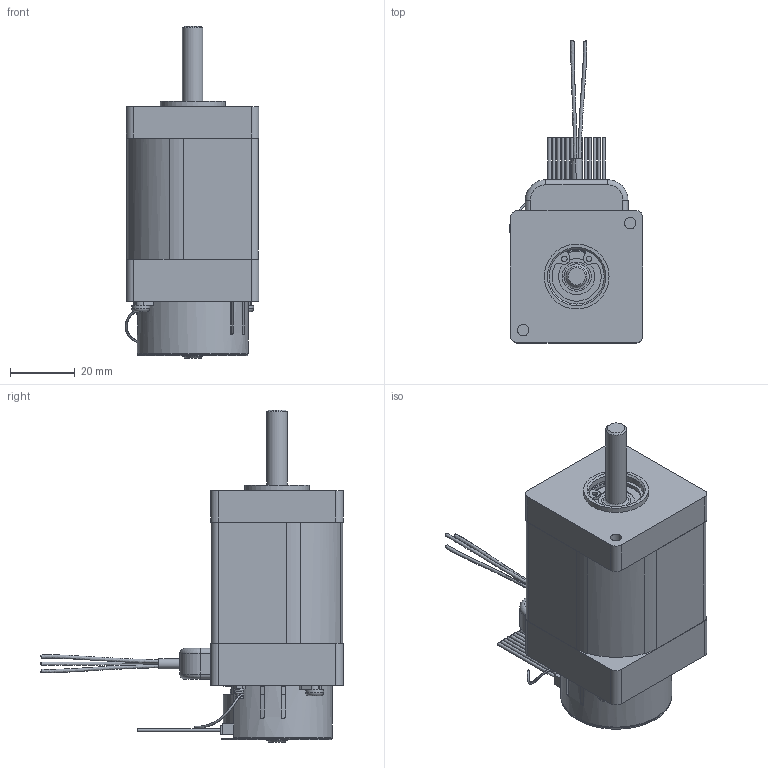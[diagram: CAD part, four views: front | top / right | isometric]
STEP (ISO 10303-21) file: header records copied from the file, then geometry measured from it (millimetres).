
FILE_DESCRIPTION((''),'2;1');
FILE_NAME('C:\CAD_work\Dummy_Modeling_Project_02-12-05\3D MODELS\BE163_FO.stp','2005-12-20T15:16:11',('jevans'),(''),'Autodesk Inventor 10','Autodesk Inventor 10','');
FILE_SCHEMA(('AUTOMOTIVE_DESIGN { 1 0 10303 214 1 1 1 1 }'));
Length unit declared in the file: inch
Products named in the file (1): BE16_FO
Bounding box: 41.3 x 93.29 x 102.49 mm (x, y, z)
Volume: 103415.5 mm3; surface area: 26271.2 mm2
Topology: 1 solids, 2 shells, 324 faces, 792 edges, 502 vertices
Faces by surface type: plane 194, cylinder 97, bspline 14, cone 11, torus 8
Full cylindrical faces by diameter (mm): 1.016 x13, 1.575 x1, 1.7 x2, 2.388 x1, 3.175 x1, 6.35 x2, 8.992 x1, 10.16 x1, 10.312 x1, 11.176 x2, 15.697 x1, 17 x1, 17.005 x2, 18.009 x1, 19.558 x1, 20.015 x1, 32.995 x1, 34.036 x1, 37.211 x1
Entity records: 11232 total; most frequent: CARTESIAN_POINT 3786, DIRECTION 1539, ORIENTED_EDGE 1478, EDGE_CURVE 739, AXIS2_PLACEMENT_3D 582, VERTEX_POINT 494, EDGE_LOOP 422, VECTOR 375
